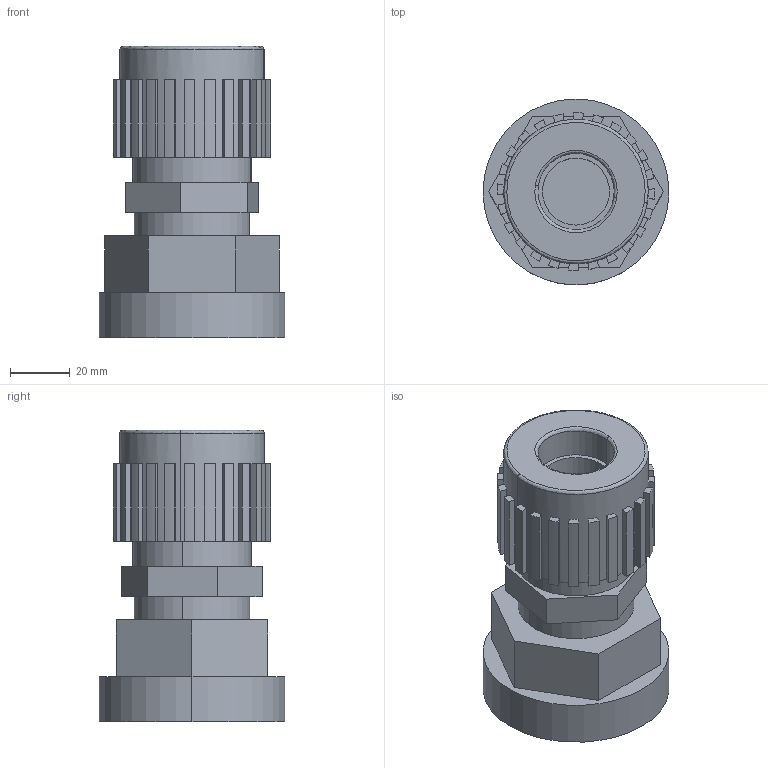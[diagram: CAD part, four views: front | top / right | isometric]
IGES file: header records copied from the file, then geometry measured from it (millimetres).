
Start section: SolidWorks IGES file using analytic representation for surfaces
Global section: file name: S:\Product Visuals\Pumps to be Defeatured\140 fittings\FITTING ASSEMBLIES\DEFEATURED\top-out\16-s-300-top-out.IGS; native system: SolidWorks 2012; preprocessor: SolidWorks 2012; author: rachel.dressel; date: 121203.144113; units: inch
Bounding box: 62.33 x 62.33 x 97.75 mm (x, y, z)
Volume: 180380.5 mm3; surface area: 29413.5 mm2
Topology: 1 solids, 1 shells, 133 faces, 368 edges, 244 vertices
Faces by surface type: plane 93, revolution 40
